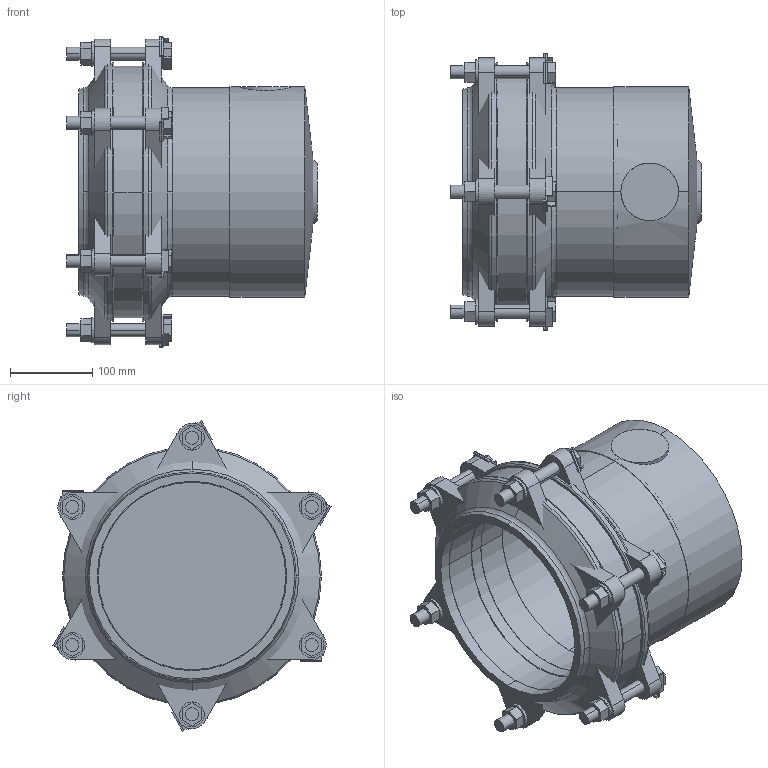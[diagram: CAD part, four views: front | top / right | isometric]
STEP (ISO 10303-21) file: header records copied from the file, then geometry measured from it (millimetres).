
FILE_DESCRIPTION(('STEP AP214'),'1');
FILE_NAME('HDA00056 DN 200.STP','2015-02-06T09:56:44',(' '),(' '),'Spatial InterOp 3D',' ',' ');
FILE_SCHEMA(('automotive_design'));
Length unit declared in the file: millimetre
Products named in the file (56): 3D-Objekt
Bounding box: 304 x 337.88 x 376.92 mm (x, y, z)
Volume: 4779227.7 mm3; surface area: 1119624.6 mm2
Topology: 56 solids, 56 shells, 402 faces, 863 edges, 572 vertices
Faces by surface type: plane 292, cylinder 82, cone 16, torus 12
Entity records: 15508 total; most frequent: CARTESIAN_POINT 2024, DIRECTION 2001, ORIENTED_EDGE 1726, EDGE_CURVE 863, AXIS2_PLACEMENT_3D 682, LINE 637, VECTOR 637, VERTEX_POINT 572
